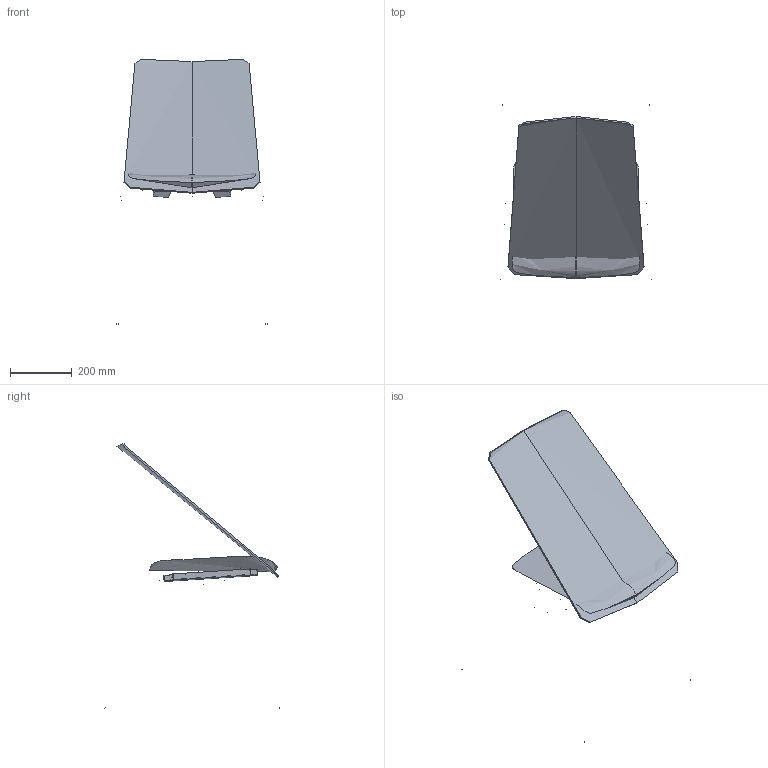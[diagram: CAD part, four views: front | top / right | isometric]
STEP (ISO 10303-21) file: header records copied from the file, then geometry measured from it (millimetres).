
FILE_DESCRIPTION(/* description */ (''),/* implementation_level */ '2;1');
FILE_NAME(/* name */ 'Evo 011',/* time_stamp */ '2023-03-21T17:10:46+01:00',/* author */ (''),/* organization */ (''),/* preprocessor_version */ 'ST-DEVELOPER v16.5',/* originating_system */ 'Rhino 7.27',/* authorisation */ '');
FILE_SCHEMA (('CONFIG_CONTROL_DESIGN'));
Length unit declared in the file: millimetre
Products named in the file (1): Document
Bounding box: 488.16 x 569.47 x 862.02 mm (x, y, z)
Volume: 95868.5 mm3; surface area: 1268396 mm2
Topology: 2 solids, 18 shells, 70 faces, 158 edges, 104 vertices
Faces by surface type: bspline 34, plane 24, cylinder 12
Full cylindrical faces by diameter (mm): 22 x12
Entity records: 6137 total; most frequent: CARTESIAN_POINT 5020, ORIENTED_EDGE 276, EDGE_CURVE 154, B_SPLINE_CURVE_WITH_KNOTS 104, VERTEX_POINT 100, ADVANCED_FACE 70, FACE_OUTER_BOUND 70, EDGE_LOOP 70
